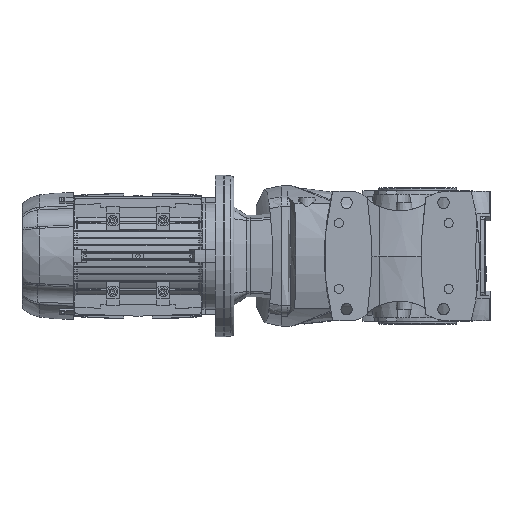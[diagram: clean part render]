
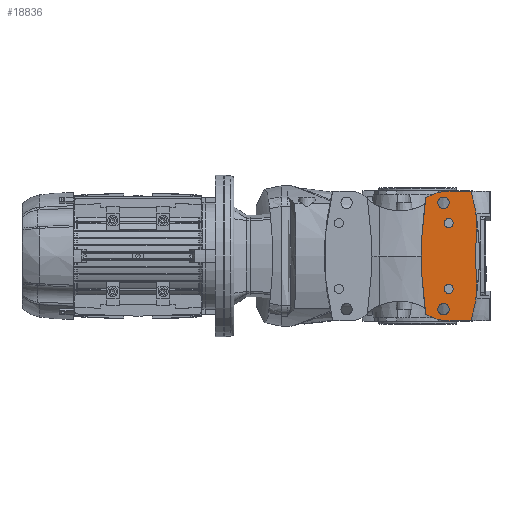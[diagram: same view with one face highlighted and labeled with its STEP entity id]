
A CAD part, front view. The second image highlights one B-rep face of the part: STEP entity #18836.
In plain terms, the highlighted planar face has unit normal (0, -1, 0).
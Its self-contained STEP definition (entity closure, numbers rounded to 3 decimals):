
#924=CARTESIAN_POINT('',(135.359,-150.0,100.0));
#925=VERTEX_POINT('',#924);
#932=CARTESIAN_POINT('',(144.373,-150.0,54.396));
#933=VERTEX_POINT('',#932);
#934=CARTESIAN_POINT('',(-250.699,-150.0,0.0));
#935=DIRECTION('',(0.0,-1.0,0.0));
#936=DIRECTION('',(-1.0,0.0,0.0));
#937=AXIS2_PLACEMENT_3D('',#934,#935,#936);
#938=CIRCLE('',#937,398.8);
#939=EDGE_CURVE('',#933,#925,#938,.T.);
#958=CARTESIAN_POINT('',(144.373,-150.0,-54.396));
#959=VERTEX_POINT('',#958);
#966=CARTESIAN_POINT('',(135.359,-150.0,-100.0));
#967=VERTEX_POINT('',#966);
#968=CARTESIAN_POINT('',(-250.699,-150.0,0.0));
#969=DIRECTION('',(0.0,-1.0,0.0));
#970=DIRECTION('',(-1.0,0.0,0.0));
#971=AXIS2_PLACEMENT_3D('',#968,#969,#970);
#972=CIRCLE('',#971,398.8);
#973=EDGE_CURVE('',#967,#959,#972,.T.);
#1473=CARTESIAN_POINT('',(101.25,-150.0,82.5));
#1474=VERTEX_POINT('',#1473);
#1475=CARTESIAN_POINT('',(92.5,-150.0,82.5));
#1476=DIRECTION('',(0.0,-1.0,0.0));
#1477=DIRECTION('',(-1.0,0.0,0.0));
#1478=AXIS2_PLACEMENT_3D('',#1475,#1476,#1477);
#1479=CIRCLE('',#1478,8.75);
#1480=EDGE_CURVE('',#1474,#1474,#1479,.T.);
#1669=CARTESIAN_POINT('',(101.25,-150.0,-82.5));
#1670=VERTEX_POINT('',#1669);
#1671=CARTESIAN_POINT('',(92.5,-150.0,-82.5));
#1672=DIRECTION('',(0.0,-1.0,0.0));
#1673=DIRECTION('',(-1.0,0.0,0.0));
#1674=AXIS2_PLACEMENT_3D('',#1671,#1672,#1673);
#1675=CIRCLE('',#1674,8.75);
#1676=EDGE_CURVE('',#1670,#1670,#1675,.T.);
#1697=CARTESIAN_POINT('',(100.5,-150.0,-58.));
#1698=VERTEX_POINT('',#1697);
#1699=CARTESIAN_POINT('',(100.5,-150.0,-51.));
#1700=DIRECTION('',(0.0,-1.0,0.0));
#1701=DIRECTION('',(0.0,0.0,-1.0));
#1702=AXIS2_PLACEMENT_3D('',#1699,#1700,#1701);
#1703=CIRCLE('',#1702,7.);
#1704=EDGE_CURVE('',#1698,#1698,#1703,.T.);
#1725=CARTESIAN_POINT('',(100.5,-150.0,44.0));
#1726=VERTEX_POINT('',#1725);
#1727=CARTESIAN_POINT('',(100.5,-150.0,51.));
#1728=DIRECTION('',(0.0,-1.0,0.0));
#1729=DIRECTION('',(0.0,0.0,-1.0));
#1730=AXIS2_PLACEMENT_3D('',#1727,#1728,#1729);
#1731=CIRCLE('',#1730,7.);
#1732=EDGE_CURVE('',#1726,#1726,#1731,.T.);
#13507=CARTESIAN_POINT('',(65.0,-150.0,90.0));
#13508=VERTEX_POINT('',#13507);
#13509=CARTESIAN_POINT('',(65.0,-150.0,-90.0));
#13510=VERTEX_POINT('',#13509);
#13511=CARTESIAN_POINT('',(658.212,-150.0,0.0));
#13512=DIRECTION('',(0.0,-1.0,0.0));
#13513=DIRECTION('',(-1.0,0.0,0.0));
#13514=AXIS2_PLACEMENT_3D('',#13511,#13512,#13513);
#13515=CIRCLE('',#13514,600.0);
#13516=EDGE_CURVE('',#13508,#13510,#13515,.T.);
#13549=CARTESIAN_POINT('',(75.196,-150.0,95.096));
#13550=VERTEX_POINT('',#13549);
#13551=CARTESIAN_POINT('',(137.111,-150.0,-41.53));
#13552=DIRECTION('',(0.0,-1.0,0.0));
#13553=DIRECTION('',(-1.0,0.0,0.0));
#13554=AXIS2_PLACEMENT_3D('',#13551,#13552,#13553);
#13555=CIRCLE('',#13554,150.0);
#13556=EDGE_CURVE('',#13550,#13508,#13555,.T.);
#13574=CARTESIAN_POINT('',(97.898,-150.0,-100.0));
#13575=VERTEX_POINT('',#13574);
#13576=CARTESIAN_POINT('',(97.898,-150.0,-100.0));
#13577=DIRECTION('',(1.0,0.0,0.0));
#13578=VECTOR('',#13577,37.461);
#13579=LINE('',#13576,#13578);
#13580=EDGE_CURVE('',#13575,#967,#13579,.T.);
#13630=CARTESIAN_POINT('',(75.196,-150.0,-95.096));
#13631=VERTEX_POINT('',#13630);
#13632=CARTESIAN_POINT('',(137.111,-150.0,41.53));
#13633=DIRECTION('',(0.0,-1.0,0.0));
#13634=DIRECTION('',(-1.0,0.0,0.0));
#13635=AXIS2_PLACEMENT_3D('',#13632,#13633,#13634);
#13636=CIRCLE('',#13635,150.0);
#13637=EDGE_CURVE('',#13510,#13631,#13636,.T.);
#15429=CARTESIAN_POINT('',(97.898,-150.0,100.0));
#15430=VERTEX_POINT('',#15429);
#15431=CARTESIAN_POINT('',(135.359,-150.0,100.0));
#15432=DIRECTION('',(-1.0,0.0,0.0));
#15433=VECTOR('',#15432,37.461);
#15434=LINE('',#15431,#15433);
#15435=EDGE_CURVE('',#925,#15430,#15434,.T.);
#16234=CARTESIAN_POINT('',(942.522,-150.0,0.0));
#16235=DIRECTION('',(0.0,-1.0,0.0));
#16236=DIRECTION('',(-1.0,0.0,0.0));
#16237=AXIS2_PLACEMENT_3D('',#16234,#16235,#16236);
#16238=CIRCLE('',#16237,800.0);
#16239=EDGE_CURVE('',#933,#959,#16238,.T.);
#18020=CARTESIAN_POINT('',(97.898,-150.0,-45.0));
#18021=DIRECTION('',(0.0,-1.0,0.0));
#18022=DIRECTION('',(-1.0,0.0,0.0));
#18023=AXIS2_PLACEMENT_3D('',#18020,#18021,#18022);
#18024=CIRCLE('',#18023,55.0);
#18025=EDGE_CURVE('',#13631,#13575,#18024,.T.);
#18038=CARTESIAN_POINT('',(97.898,-150.0,45.0));
#18039=DIRECTION('',(0.0,-1.0,0.0));
#18040=DIRECTION('',(-1.0,0.0,0.0));
#18041=AXIS2_PLACEMENT_3D('',#18038,#18039,#18040);
#18042=CIRCLE('',#18041,55.0);
#18043=EDGE_CURVE('',#15430,#13550,#18042,.T.);
#18807=CARTESIAN_POINT('',(187.932,-150.0,-120.0));
#18808=DIRECTION('',(0.0,1.0,0.0));
#18809=DIRECTION('',(0.0,0.0,1.0));
#18810=AXIS2_PLACEMENT_3D('',#18807,#18808,#18809);
#18811=PLANE('',#18810);
#18812=ORIENTED_EDGE('',*,*,#13580,.T.);
#18813=ORIENTED_EDGE('',*,*,#973,.T.);
#18814=ORIENTED_EDGE('',*,*,#16239,.F.);
#18815=ORIENTED_EDGE('',*,*,#939,.T.);
#18816=ORIENTED_EDGE('',*,*,#15435,.T.);
#18817=ORIENTED_EDGE('',*,*,#18043,.T.);
#18818=ORIENTED_EDGE('',*,*,#13556,.T.);
#18819=ORIENTED_EDGE('',*,*,#13516,.T.);
#18820=ORIENTED_EDGE('',*,*,#13637,.T.);
#18821=ORIENTED_EDGE('',*,*,#18025,.T.);
#18822=EDGE_LOOP('',(#18812,#18813,#18814,#18815,#18816,#18817,#18818,#18819,#18820,#18821));
#18823=FACE_OUTER_BOUND('',#18822,.T.);
#18824=ORIENTED_EDGE('',*,*,#1704,.F.);
#18825=EDGE_LOOP('',(#18824));
#18826=FACE_BOUND('',#18825,.T.);
#18827=ORIENTED_EDGE('',*,*,#1480,.F.);
#18828=EDGE_LOOP('',(#18827));
#18829=FACE_BOUND('',#18828,.T.);
#18830=ORIENTED_EDGE('',*,*,#1676,.F.);
#18831=EDGE_LOOP('',(#18830));
#18832=FACE_BOUND('',#18831,.T.);
#18833=ORIENTED_EDGE('',*,*,#1732,.F.);
#18834=EDGE_LOOP('',(#18833));
#18835=FACE_BOUND('',#18834,.T.);
#18836=ADVANCED_FACE('',(#18823,#18826,#18829,#18832,#18835),#18811,.F.);
